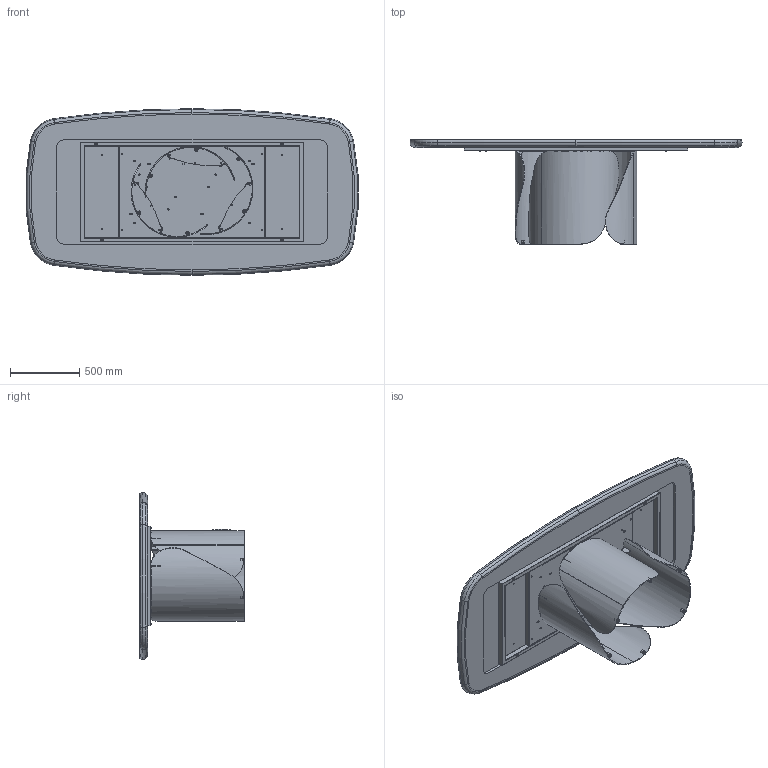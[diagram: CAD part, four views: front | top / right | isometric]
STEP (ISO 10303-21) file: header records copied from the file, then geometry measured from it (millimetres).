
FILE_DESCRIPTION (( 'STEP AP203' ), '1' );
FILE_NAME ('ON42K_Onda_240x120_King.STEP', '2024-07-31T14:54:53', ( '' ), ( '' ), 'SwSTEP 2.0', 'SolidWorks 2022', '' );
FILE_SCHEMA (( 'CONFIG_CONTROL_DESIGN' ));
Length unit declared in the file: millimetre
Products named in the file (16): OND000000_01-00-PIASTRA SUPERIORE BASE ONDA; ON42K_Onda_240x120_King; COLLO TELAIO UNIVERSALE TTAV0601 CON FERRAMENTA_FERRAMENTA MTG TOP LEGNO-MARMO-KING; K50-00-PIANO SOLO CERAMICA 236,7x116,7cm sag; OND000000_03-00-LAMIERA CURVATA PRINCIPALE_OND00000X-00-ONDA BASE GREZZA PROTOTIPO; W50-01-PIANO KING BORDO 240x120 SAGOMATO LACCATO; COLLO BASE ONDA SINGOLA CON FERRAMENTA; M8xXXmm_M8x55mm; OND000000-03-ONDA BASE GREZZA; OND000000_02-00-CILINDRO DI FISSAGGIO Ø25X17 M8; TTAV0601_01-00-STRUTTURA X TAVOLI PLAI ONDA NOA 240; ASSIEME PIANO+CERAMICA 240X120; TTAV0601-00-TELAIO X TAVOLI PLAI ONDA NOA 240cm_TTAV06; TTAV0601_02-00-VASSOIO TAVOLI PLAI ONDA NOA 240; PIEDINO PER ONDA; rondella M8_8X24
Assembly tree (25 placements, depth 4):
  ON42K_Onda_240x120_King
    COLLO TELAIO UNIVERSALE TTAV0601 CON FERRAMENTA_FERRAMENTA MTG TOP LEGNO-MARMO-KING
      TTAV0601-00-TELAIO X TAVOLI PLAI ONDA NOA 240cm_TTAV06
        TTAV0601_02-00-VASSOIO TAVOLI PLAI ONDA NOA 240
        TTAV0601_01-00-STRUTTURA X TAVOLI PLAI ONDA NOA 240
      rondella M8_8X24  x4
      M8xXXmm_M8x55mm  x4
    COLLO BASE ONDA SINGOLA CON FERRAMENTA  x3
      OND000000-03-ONDA BASE GREZZA
        OND000000_03-00-LAMIERA CURVATA PRINCIPALE_OND00000X-00-ONDA BASE GREZZA PROTOTIPO
        OND000000_01-00-PIASTRA SUPERIORE BASE ONDA
        OND000000_02-00-CILINDRO DI FISSAGGIO Ø25X17 M8  x2
      PIEDINO PER ONDA
    ASSIEME PIANO+CERAMICA 240X120
      K50-00-PIANO SOLO CERAMICA 236,7x116,7cm sag
      W50-01-PIANO KING BORDO 240x120 SAGOMATO LACCATO
Bounding box: 2391.93 x 752 x 1200 mm (x, y, z)
Volume: 129132404.9 mm3; surface area: 17093226.8 mm2
Topology: 36 solids, 36 shells, 1200 faces, 2805 edges, 1712 vertices
Faces by surface type: plane 442, cylinder 436, cone 132, torus 122, bspline 60, sphere 8
Entity records: 23138 total; most frequent: CARTESIAN_POINT 5184, DIRECTION 3536, ORIENTED_EDGE 3194, EDGE_CURVE 1597, AXIS2_PLACEMENT_3D 1362, VERTEX_POINT 968, VECTOR 812, LINE 812
